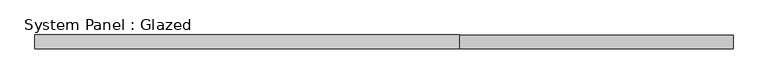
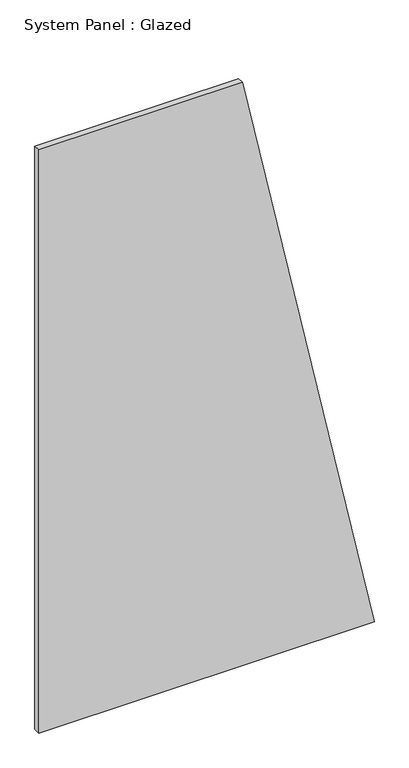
"""IFC4 building model written with IfcOpenShell, lengths in millimetres: plate geometry, System Panel : Glazed."""

from ifc_helpers import new_model, si_unit, frame, origin, place, context, project, spatial, polyline, outline, extrude, source, transform, mapped, element, save


def system_panel_glazed_08bc44e3(model_context):
    return source(origin(), model_context, "Body", "SweptSolid", [
        extrude(outline(polyline([(0.0, -633.2488859), (0.0, 633.2488859), (2325.0, 136.0688386), (2325.0, -633.2488859), (0.0, -633.2488859)])), frame((0.0, -49.5, 0.0), z_axis=(0.0, 1.0, 0.0), x_axis=(0.0, 0.0, 1.0)), (0.0, 0.0, 1.0), 25.0),
    ])


if __name__ == "__main__":
    model = new_model("IFC4")
    model_context = context("Model", 3, world=origin())
    ifc_project = project(units=[si_unit("LENGTHUNIT", "METRE", prefix="MILLI")], contexts=[model_context])
    site = spatial("IfcSite", under=ifc_project)
    building = spatial("IfcBuilding", under=site)
    placement = place(None, origin())
    system_panel_glazed_shape = system_panel_glazed_08bc44e3(model_context)
    element("IfcPlate", 1, ObjectType="System Panel : Glazed", at=placement, inside=building, context=model_context, shape_type="MappedRepresentation", body=[
        mapped(system_panel_glazed_shape, transform((0.0, 0.0, 0.0), x_axis=(1.0, 0.0, 0.0), y_axis=(0.0, 1.0, 0.0), z_axis=(0.0, 0.0, 1.0))),
    ])
    save(model, "model.ifc")
